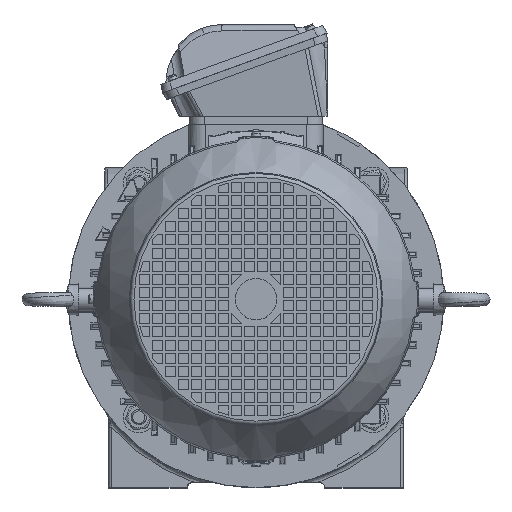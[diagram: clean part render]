
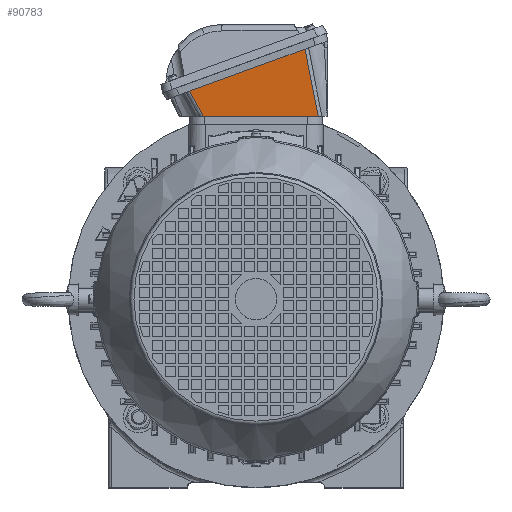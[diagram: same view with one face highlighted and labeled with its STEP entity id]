
A CAD part, top view. The second image highlights one B-rep face of the part: STEP entity #90783.
In plain terms, the highlighted planar face has unit normal (0.036, -0.098, 0.995).
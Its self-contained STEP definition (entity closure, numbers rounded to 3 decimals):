
#3136=B_SPLINE_CURVE_WITH_KNOTS('',3,(#155224,#155225,#155226,#155227),
 .UNSPECIFIED.,.F.,.F.,(4,4),(0.,0.023),.UNSPECIFIED.);
#3137=B_SPLINE_CURVE_WITH_KNOTS('',3,(#155228,#155229,#155230,#155231,#155232,
#155233,#155234,#155235,#155236,#155237,#155238,#155239,#155240),
 .UNSPECIFIED.,.F.,.F.,(4,3,3,3,4),(0.,0.027,0.027,
0.05,0.055),.UNSPECIFIED.);
#13301=FACE_OUTER_BOUND('',#18749,.T.);
#18749=EDGE_LOOP('',(#72315,#72316,#72317,#72318));
#26121=LINE('',#155126,#33067);
#26125=LINE('',#155223,#33071);
#33067=VECTOR('',#112034,1000.);
#33071=VECTOR('',#112048,1000.);
#42636=VERTEX_POINT('',#155124);
#42637=VERTEX_POINT('',#155125);
#42652=VERTEX_POINT('',#155221);
#42653=VERTEX_POINT('',#155222);
#53139=EDGE_CURVE('',#42636,#42637,#26121,.T.);
#53155=EDGE_CURVE('',#42652,#42653,#26125,.T.);
#53156=EDGE_CURVE('',#42653,#42637,#3136,.T.);
#53157=EDGE_CURVE('',#42636,#42652,#3137,.T.);
#72315=ORIENTED_EDGE('',*,*,#53155,.T.);
#72316=ORIENTED_EDGE('',*,*,#53156,.T.);
#72317=ORIENTED_EDGE('',*,*,#53139,.F.);
#72318=ORIENTED_EDGE('',*,*,#53157,.T.);
#87325=PLANE('',#96823);
#90783=ADVANCED_FACE('',(#13301),#87325,.T.);
#96823=AXIS2_PLACEMENT_3D('',#155220,#112046,#112047);
#112034=DIRECTION('',(-0.999,0.,0.036));
#112046=DIRECTION('center_axis',(0.036,-0.098,
0.995));
#112047=DIRECTION('ref_axis',(0.,0.995,0.098));
#112048=DIRECTION('',(-0.94,-0.342,0.));
#155124=CARTESIAN_POINT('',(49.714,146.5,315.598));
#155125=CARTESIAN_POINT('',(-41.969,146.5,318.894));
#155126=CARTESIAN_POINT('',(52.77,146.5,315.489));
#155220=CARTESIAN_POINT('Origin',(53.,211.5,321.9));
#155221=CARTESIAN_POINT('',(39.196,200.091,321.269));
#155222=CARTESIAN_POINT('',(-53.103,166.497,321.269));
#155223=CARTESIAN_POINT('',(55.052,205.862,321.269));
#155224=CARTESIAN_POINT('Ctrl Pts',(-53.103,166.497,
321.269));
#155225=CARTESIAN_POINT('Ctrl Pts',(-49.364,159.847,
320.478));
#155226=CARTESIAN_POINT('Ctrl Pts',(-45.658,153.178,
319.686));
#155227=CARTESIAN_POINT('Ctrl Pts',(-41.969,146.5,318.894));
#155228=CARTESIAN_POINT('Ctrl Pts',(49.714,146.5,315.598));
#155229=CARTESIAN_POINT('Ctrl Pts',(47.933,155.339,316.535));
#155230=CARTESIAN_POINT('Ctrl Pts',(46.165,164.18,317.472));
#155231=CARTESIAN_POINT('Ctrl Pts',(44.422,173.026,318.409));
#155232=CARTESIAN_POINT('Ctrl Pts',(44.406,173.111,318.417));
#155233=CARTESIAN_POINT('Ctrl Pts',(44.389,173.195,318.426));
#155234=CARTESIAN_POINT('Ctrl Pts',(44.373,173.279,318.435));
#155235=CARTESIAN_POINT('Ctrl Pts',(42.919,180.657,319.216));
#155236=CARTESIAN_POINT('Ctrl Pts',(41.482,188.038,319.997));
#155237=CARTESIAN_POINT('Ctrl Pts',(40.078,195.426,320.777));
#155238=CARTESIAN_POINT('Ctrl Pts',(39.782,196.981,320.941));
#155239=CARTESIAN_POINT('Ctrl Pts',(39.488,198.535,321.105));
#155240=CARTESIAN_POINT('Ctrl Pts',(39.196,200.091,321.269));
